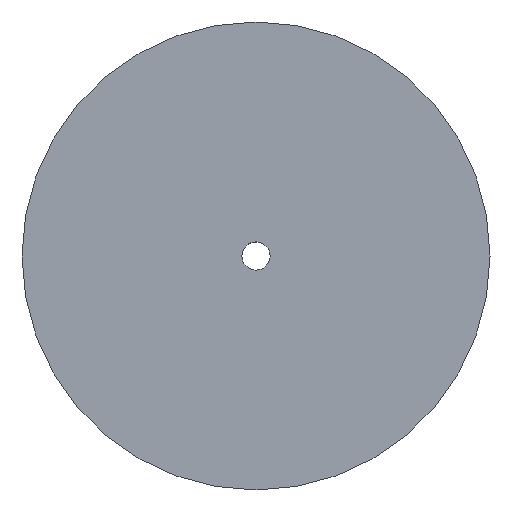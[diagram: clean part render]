
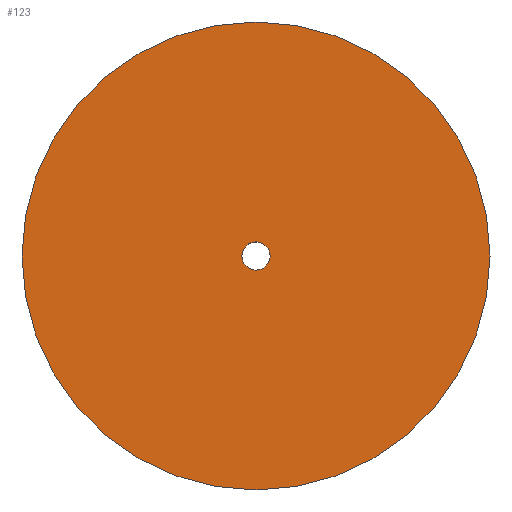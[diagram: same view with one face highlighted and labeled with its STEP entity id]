
A CAD part, top view. The second image highlights one B-rep face of the part: STEP entity #123.
In plain terms, the highlighted planar face has unit normal (0, 0, 1).
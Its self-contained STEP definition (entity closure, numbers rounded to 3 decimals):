
#62=CARTESIAN_POINT('Vertex',(-2.852,1.558,0.)) ;
#76=CARTESIAN_POINT('Vertex',(2.852,-1.558,0.)) ;
#79=CARTESIAN_POINT('Axis2P3D Location',(0.,0.,0.)) ;
#91=CARTESIAN_POINT('Axis2P3D Location',(0.,0.,0.)) ;
#96=CARTESIAN_POINT('Axis2P3D Location',(0.,0.,0.)) ;
#100=CARTESIAN_POINT('Vertex',(54.,0.,0.)) ;
#102=CARTESIAN_POINT('Vertex',(-54.,0.,0.)) ;
#105=CARTESIAN_POINT('Axis2P3D Location',(0.,0.,0.)) ;
#114=CARTESIAN_POINT('Axis2P3D Location',(0.,0.,0.)) ;
#80=DIRECTION('Axis2P3D Direction',(0.,-0.,-1.)) ;
#92=DIRECTION('Axis2P3D Direction',(0.,0.,1.)) ;
#93=DIRECTION('Axis2P3D XDirection',(1.,0.,0.)) ;
#97=DIRECTION('Axis2P3D Direction',(0.,0.,1.)) ;
#106=DIRECTION('Axis2P3D Direction',(0.,0.,1.)) ;
#115=DIRECTION('Axis2P3D Direction',(0.,0.,1.)) ;
#81=AXIS2_PLACEMENT_3D('Circle Axis2P3D',#79,#80,$) ;
#94=AXIS2_PLACEMENT_3D('Plane Axis2P3D',#91,#92,#93) ;
#98=AXIS2_PLACEMENT_3D('Circle Axis2P3D',#96,#97,$) ;
#107=AXIS2_PLACEMENT_3D('Circle Axis2P3D',#105,#106,$) ;
#116=AXIS2_PLACEMENT_3D('Circle Axis2P3D',#114,#115,$) ;
#111=ORIENTED_EDGE('',*,*,#104,.F.) ;
#112=ORIENTED_EDGE('',*,*,#109,.F.) ;
#120=ORIENTED_EDGE('',*,*,#118,.F.) ;
#121=ORIENTED_EDGE('',*,*,#83,.F.) ;
#122=FACE_BOUND('',#119,.T.) ;
#123=ADVANCED_FACE('PartBody',(#113,#122),#95,.T.) ;
#82=CIRCLE('generated circle',#81,3.25) ;
#99=CIRCLE('generated circle',#98,54.) ;
#108=CIRCLE('generated circle',#107,54.) ;
#117=CIRCLE('generated circle',#116,3.25) ;
#83=EDGE_CURVE('',#77,#63,#82,.F.) ;
#104=EDGE_CURVE('',#101,#103,#99,.F.) ;
#109=EDGE_CURVE('',#103,#101,#108,.F.) ;
#118=EDGE_CURVE('',#63,#77,#117,.T.) ;
#110=EDGE_LOOP('',(#111,#112)) ;
#119=EDGE_LOOP('',(#120,#121)) ;
#113=FACE_OUTER_BOUND('',#110,.T.) ;
#95=PLANE('',#94) ;
#63=VERTEX_POINT('',#62) ;
#77=VERTEX_POINT('',#76) ;
#101=VERTEX_POINT('',#100) ;
#103=VERTEX_POINT('',#102) ;
